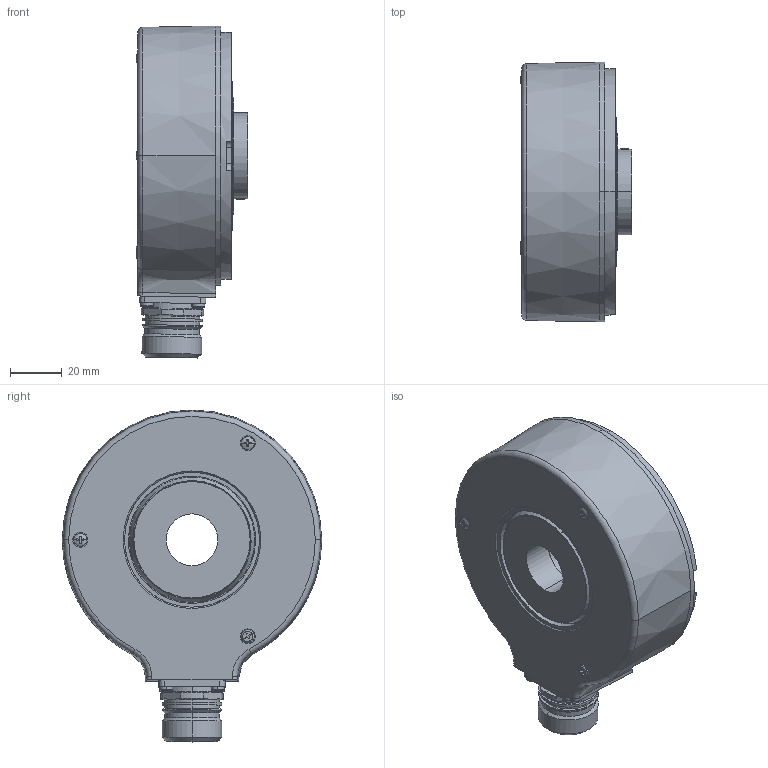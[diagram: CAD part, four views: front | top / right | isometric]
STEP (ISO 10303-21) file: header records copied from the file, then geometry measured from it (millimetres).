
FILE_DESCRIPTION (( 'STEP AP214' ), '1' );
FILE_NAME ('A020.1CX2.STEP', '2010-03-17T06:48:13', ( 'admin' ), ( 'Fritz Kübler GmbH' ), 'SwSTEP 2.0', 'SolidWorks 2009', '' );
FILE_SCHEMA (( 'AUTOMOTIVE_DESIGN' ));
Length unit declared in the file: millimetre
Products named in the file (1): A020.1CX2
Bounding box: 43 x 100 x 127.91 mm (x, y, z)
Volume: 173811.8 mm3; surface area: 85736.8 mm2
Topology: 29 solids, 31 shells, 1083 faces, 2581 edges, 1569 vertices
Faces by surface type: cylinder 445, plane 286, cone 188, sphere 84, torus 76, bspline 4
Entity records: 45509 total; most frequent: CARTESIAN_POINT 8236, DIRECTION 5750, ORIENTED_EDGE 4790, AXIS2_PLACEMENT_3D 2419, EDGE_CURVE 2395, VERTEX_POINT 1497, CIRCLE 1339, EDGE_LOOP 1316
